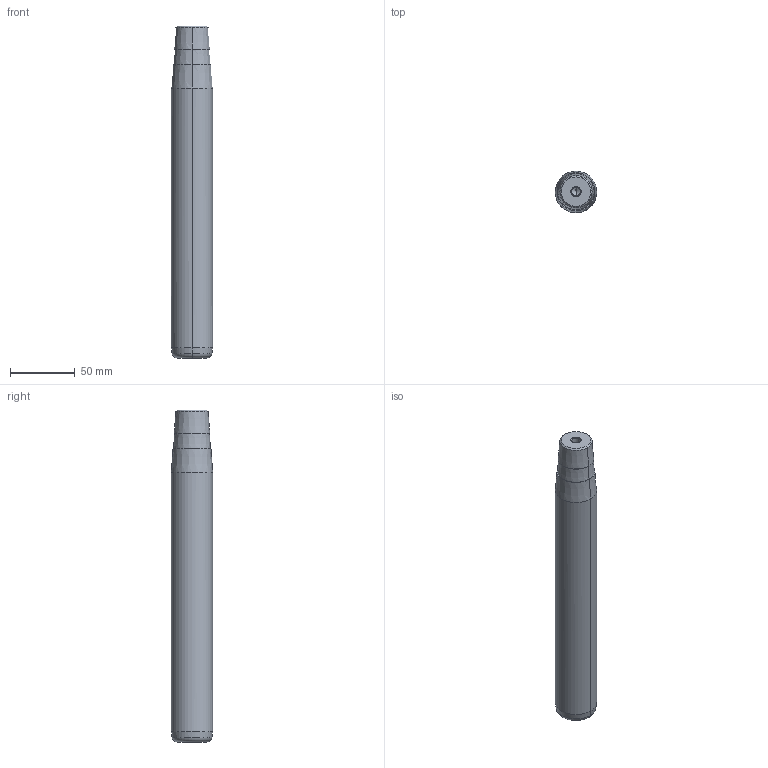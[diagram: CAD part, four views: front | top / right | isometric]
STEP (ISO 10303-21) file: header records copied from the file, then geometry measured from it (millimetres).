
FILE_DESCRIPTION(('CATIA V5 STEP Exchange'),'2;1');
FILE_NAME('C:\Users\Utente\Desktop\IO LAVORO\3D X SITO CF\X SITO\722\722-32x224x257.stp','2021-01-08T16:09:00+00:00',('none'),('none'),'CATIA Version 5 Release 20 GA (IN-10)','CATIA V5 STEP AP203','none');
FILE_SCHEMA(('CONFIG_CONTROL_DESIGN'));
Length unit declared in the file: millimetre
Products named in the file (1): 722-32x224x257
Bounding box: 32 x 32 x 257 mm (x, y, z)
Volume: 195780.6 mm3; surface area: 27411.1 mm2
Topology: 1 solids, 1 shells, 32 faces, 98 edges, 66 vertices
Faces by surface type: cone 22, cylinder 6, plane 2, torus 2
Entity records: 1166 total; most frequent: CARTESIAN_POINT 279, ORIENTED_EDGE 188, DIRECTION 148, EDGE_CURVE 94, AXIS2_PLACEMENT_3D 89, VERTEX_POINT 66, CIRCLE 56, EDGE_LOOP 34
